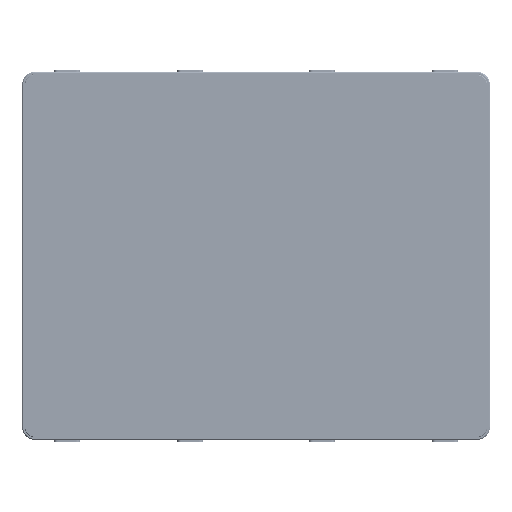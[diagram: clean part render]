
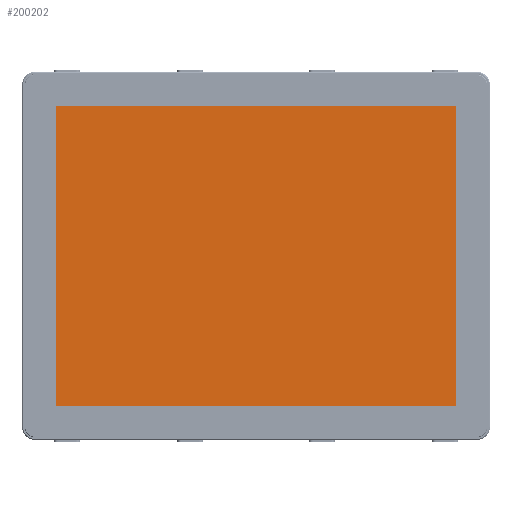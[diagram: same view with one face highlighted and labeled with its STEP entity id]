
A CAD part, top view. The second image highlights one B-rep face of the part: STEP entity #200202.
In plain terms, the highlighted planar face has unit normal (0, 0, 1) as drawn and (0, -1, 0) by its records, which use the part's own axes.
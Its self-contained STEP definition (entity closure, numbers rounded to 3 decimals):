
#905 = CARTESIAN_POINT ( 'NONE',  ( 152., -3.9, -114. ) ) ;
#3311 = FACE_OUTER_BOUND ( 'NONE', #186933, .T. ) ;
#7638 = DIRECTION ( 'NONE',  ( 1., 0., 0. ) ) ;
#10296 = VECTOR ( 'NONE', #31545, 1000. ) ;
#10392 = LINE ( 'NONE', #136943, #71749 ) ;
#14361 = ORIENTED_EDGE ( 'NONE', *, *, #151705, .T. ) ;
#19905 = CARTESIAN_POINT ( 'NONE',  ( 152., -3.9, -114. ) ) ;
#21387 = EDGE_CURVE ( 'NONE', #121724, #118249, #10392, .T. ) ;
#29630 = DIRECTION ( 'NONE',  ( 0., -1., 0. ) ) ;
#31545 = DIRECTION ( 'NONE',  ( 0., 0., 1. ) ) ;
#39323 = CARTESIAN_POINT ( 'NONE',  ( 152., -3.9, 114. ) ) ;
#41074 = DIRECTION ( 'NONE',  ( -1., 0., 0. ) ) ;
#42567 = VERTEX_POINT ( 'NONE', #84452 ) ;
#45712 = CARTESIAN_POINT ( 'NONE',  ( -152., -3.9, 114. ) ) ;
#71749 = VECTOR ( 'NONE', #41074, 1000. ) ;
#76819 = ORIENTED_EDGE ( 'NONE', *, *, #112345, .T. ) ;
#80581 = DIRECTION ( 'NONE',  ( 0., 0., -1. ) ) ;
#84452 = CARTESIAN_POINT ( 'NONE',  ( -152., -3.9, -114. ) ) ;
#85261 = LINE ( 'NONE', #19905, #182573 ) ;
#91952 = DIRECTION ( 'NONE',  ( 0., 0., -1. ) ) ;
#95905 = LINE ( 'NONE', #158117, #139493 ) ;
#112345 = EDGE_CURVE ( 'NONE', #42567, #141786, #85261, .T. ) ;
#112823 = CARTESIAN_POINT ( 'NONE',  ( 152., -3.9, -114. ) ) ;
#115699 = ORIENTED_EDGE ( 'NONE', *, *, #116822, .T. ) ;
#116822 = EDGE_CURVE ( 'NONE', #141786, #121724, #171417, .T. ) ;
#118249 = VERTEX_POINT ( 'NONE', #45712 ) ;
#120531 = CARTESIAN_POINT ( 'NONE',  ( -168., -3.9, 130. ) ) ;
#121724 = VERTEX_POINT ( 'NONE', #39323 ) ;
#136943 = CARTESIAN_POINT ( 'NONE',  ( 152., -3.9, 114. ) ) ;
#139493 = VECTOR ( 'NONE', #80581, 1000. ) ;
#141786 = VERTEX_POINT ( 'NONE', #112823 ) ;
#144944 = ORIENTED_EDGE ( 'NONE', *, *, #21387, .T. ) ;
#151705 = EDGE_CURVE ( 'NONE', #118249, #42567, #95905, .T. ) ;
#158117 = CARTESIAN_POINT ( 'NONE',  ( -152., -3.9, -114. ) ) ;
#167472 = PLANE ( 'NONE',  #184082 ) ;
#171417 = LINE ( 'NONE', #905, #10296 ) ;
#182573 = VECTOR ( 'NONE', #7638, 1000. ) ;
#184082 = AXIS2_PLACEMENT_3D ( 'NONE', #120531, #29630, #91952 ) ;
#186933 = EDGE_LOOP ( 'NONE', ( #14361, #76819, #115699, #144944 ) ) ;
#200202 = ADVANCED_FACE ( 'NONE', ( #3311 ), #167472, .T. ) ;
